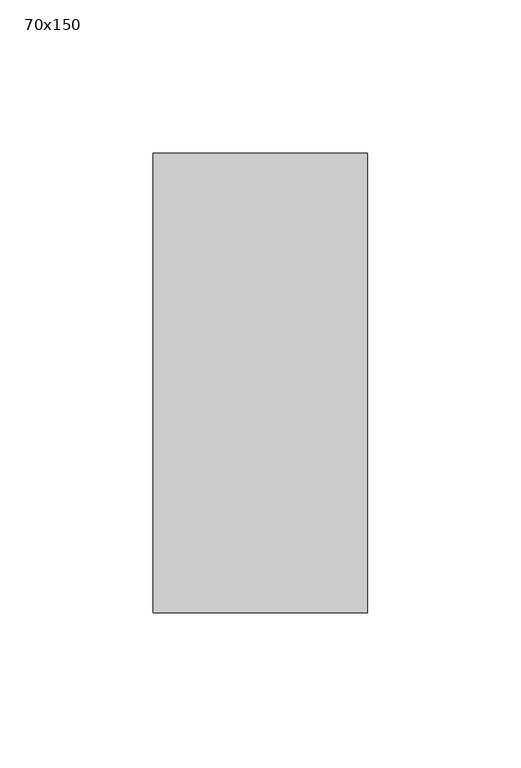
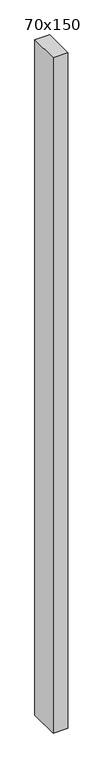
"""IFC4 building model written with IfcOpenShell, lengths in millimetres: member geometry, 長方形のマリオン : 70x150."""

from ifc_helpers import new_model, si_unit, frame, origin, place, context, project, spatial, polyline, outline, extrude, source, transform, mapped, element, save


def member_70x150_0479a1cf(model_context):
    return source(origin(), model_context, "Body", "SweptSolid", [
        extrude(outline(polyline([(0.0, 75.0), (0.0, -75.0), (-70.0, -75.0), (-70.0, 75.0), (0.0, 75.0)])), frame((0.0, 0.0, -3395.0), z_axis=(0.0, 0.0, 1.0), x_axis=(1.0, 0.0, 0.0)), (0.0, 0.0, 1.0), 3395.0),
    ])


if __name__ == "__main__":
    model = new_model("IFC4")
    model_context = context("Model", 3, world=origin())
    ifc_project = project(units=[si_unit("LENGTHUNIT", "METRE", prefix="MILLI")], contexts=[model_context])
    site = spatial("IfcSite", under=ifc_project)
    building = spatial("IfcBuilding", under=site)
    placement = place(None, origin())
    member_70x150_shape = member_70x150_0479a1cf(model_context)
    element("IfcMember", 1, ObjectType="長方形のマリオン : 70x150", at=placement, inside=building, context=model_context, shape_type="MappedRepresentation", body=[
        mapped(member_70x150_shape, transform((0.0, 0.0, 0.0), x_axis=(1.0, 0.0, 0.0), y_axis=(0.0, 1.0, 0.0), z_axis=(0.0, 0.0, 1.0))),
    ])
    save(model, "model.ifc")
